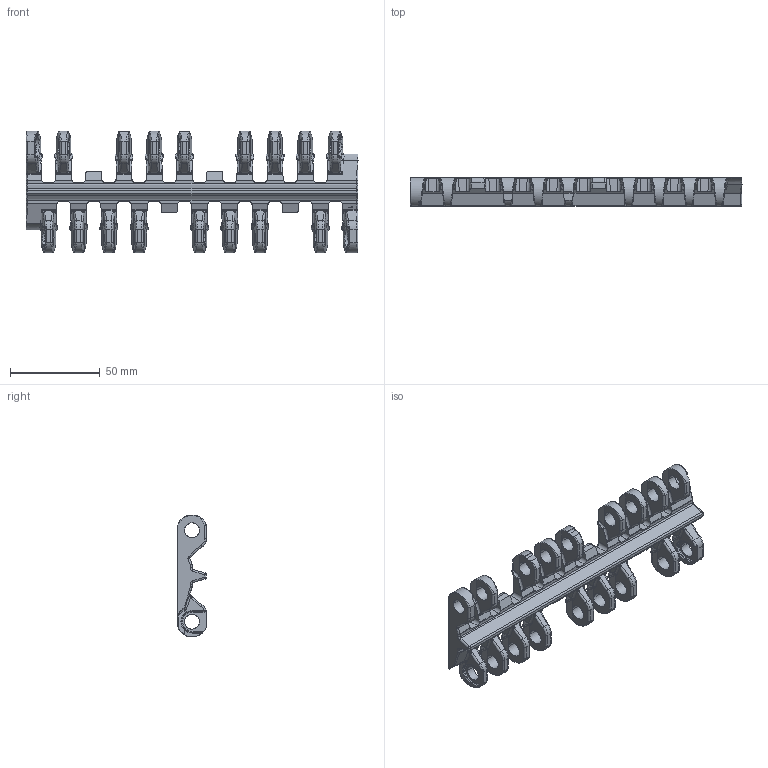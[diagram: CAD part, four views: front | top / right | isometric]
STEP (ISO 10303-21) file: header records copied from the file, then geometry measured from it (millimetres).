
FILE_DESCRIPTION((''),'2;1');
FILE_NAME('UNI_MPB_RO2F_22_K725','2009-08-28T',('jas'),(''),'PRO/ENGINEER BY PARAMETRIC TECHNOLOGY CORPORATION, 2008490','PRO/ENGINEER BY PARAMETRIC TECHNOLOGY CORPORATION, 2008490','');
FILE_SCHEMA(('AUTOMOTIVE_DESIGN { 1 0 10303 214 1 1 1 1 }'));
Products named in the file (1): UNI_MPB_RO2F_22_K725
Bounding box: 184.6 x 16 x 67.8 mm (x, y, z)
Volume: 60714 mm3; surface area: 30398.7 mm2
Topology: 1 solids, 1 shells, 1762 faces, 4780 edges, 2987 vertices
Faces by surface type: cylinder 666, bspline 523, plane 468, torus 93, sphere 12
Entity records: 146334 total; most frequent: CARTESIAN_POINT 108669, ORIENTED_EDGE 9522, DIRECTION 5379, EDGE_CURVE 4761, VERTEX_POINT 2987, B_SPLINE_CURVE_WITH_KNOTS 2393, VECTOR 1835, LINE 1835
